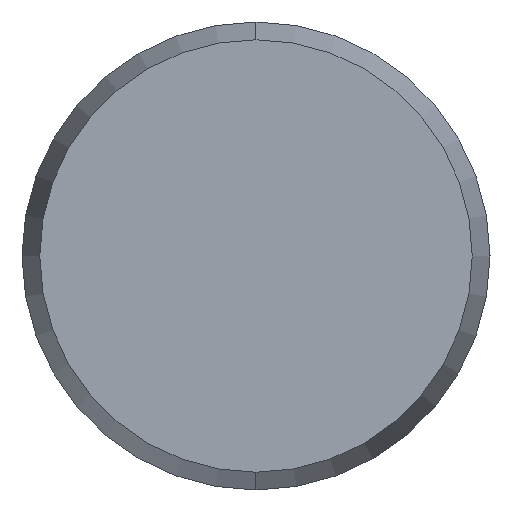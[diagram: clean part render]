
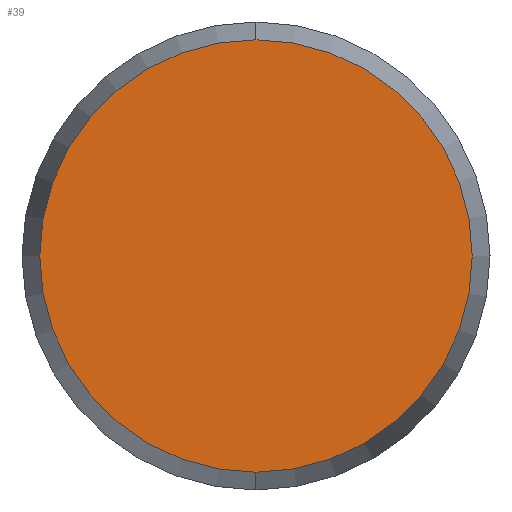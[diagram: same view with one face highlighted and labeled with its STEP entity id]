
A CAD part, left-side view. The second image highlights one B-rep face of the part: STEP entity #39.
In plain terms, the highlighted planar face has unit normal (-1, 0, 0).
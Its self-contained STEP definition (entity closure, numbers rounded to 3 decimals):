
#25 = VERTEX_POINT ( 'NONE', #94 ) ;
#28 = ORIENTED_EDGE ( 'NONE', *, *, #37, .F. ) ;
#34 = EDGE_CURVE ( 'NONE', #25, #38, #147, .T. ) ;
#37 = EDGE_CURVE ( 'NONE', #38, #25, #142, .T. ) ;
#38 = VERTEX_POINT ( 'NONE', #137 ) ;
#39 = ADVANCED_FACE ( 'NONE', ( #136 ), #135, .F. ) ;
#44 = ORIENTED_EDGE ( 'NONE', *, *, #34, .F. ) ;
#61 = EDGE_LOOP ( 'NONE', ( #28, #44 ) ) ;
#94 = CARTESIAN_POINT ( 'NONE',  ( -20., 0., -5.544 ) ) ;
#130 = DIRECTION ( 'NONE',  ( 0., 0., -1. ) ) ;
#131 = DIRECTION ( 'NONE',  ( 1., 0., 0. ) ) ;
#132 = CARTESIAN_POINT ( 'NONE',  ( -20., 0., 0. ) ) ;
#133 = AXIS2_PLACEMENT_3D ( 'NONE', #132, #131, #130 ) ;
#135 = PLANE ( 'NONE',  #133 ) ;
#136 = FACE_OUTER_BOUND ( 'NONE', #61, .T. ) ;
#137 = CARTESIAN_POINT ( 'NONE',  ( -20., 0., 5.544 ) ) ;
#138 = DIRECTION ( 'NONE',  ( 0., 0., -1. ) ) ;
#139 = DIRECTION ( 'NONE',  ( 1., 0., 0. ) ) ;
#140 = CARTESIAN_POINT ( 'NONE',  ( -20., 0., 0. ) ) ;
#141 = AXIS2_PLACEMENT_3D ( 'NONE', #140, #139, #138 ) ;
#142 = CIRCLE ( 'NONE', #141, 5.544 ) ;
#143 = DIRECTION ( 'NONE',  ( 0., 0., -1. ) ) ;
#144 = DIRECTION ( 'NONE',  ( 1., 0., 0. ) ) ;
#145 = CARTESIAN_POINT ( 'NONE',  ( -20., 0., 0. ) ) ;
#146 = AXIS2_PLACEMENT_3D ( 'NONE', #145, #144, #143 ) ;
#147 = CIRCLE ( 'NONE', #146, 5.544 ) ;
